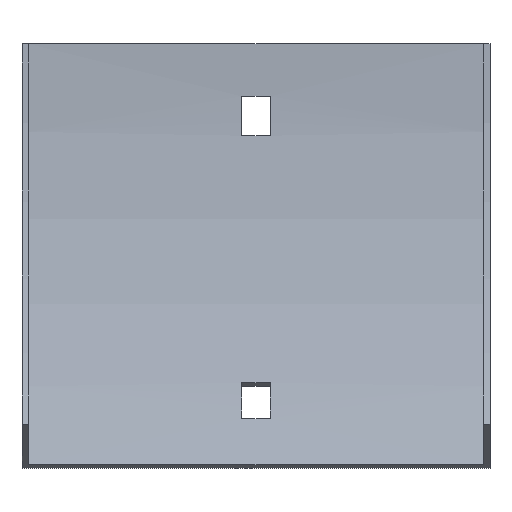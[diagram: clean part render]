
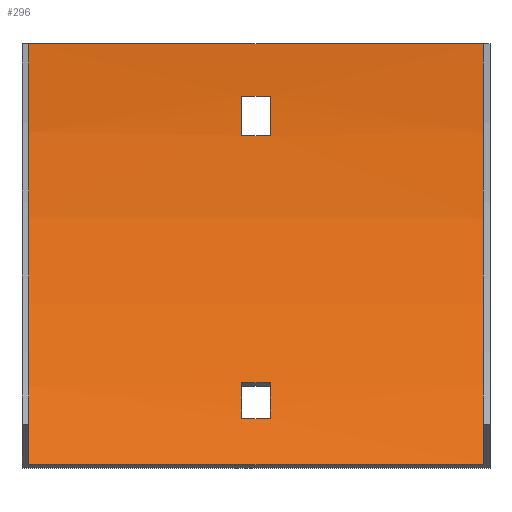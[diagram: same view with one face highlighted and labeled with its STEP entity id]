
A CAD part, front view. The second image highlights one B-rep face of the part: STEP entity #296.
In plain terms, the highlighted cylindrical face has radius 192.5 mm (diameter 385 mm), a partial arc.
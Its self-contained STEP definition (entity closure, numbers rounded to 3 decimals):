
#6 = CARTESIAN_POINT ( 'NONE',  ( 3.25, -21.614, -85.671 ) ) ;
#10 = DIRECTION ( 'NONE',  ( 1., 0., 0. ) ) ;
#12 = DIRECTION ( 'NONE',  ( 0., 0., -1. ) ) ;
#13 = AXIS2_PLACEMENT_3D ( 'NONE', #82, #463, #178 ) ;
#16 = DIRECTION ( 'NONE',  ( 0., 0., 1. ) ) ;
#18 = VERTEX_POINT ( 'NONE', #293 ) ;
#25 = ORIENTED_EDGE ( 'NONE', *, *, #520, .F. ) ;
#42 = CYLINDRICAL_SURFACE ( 'NONE', #13, 192.5 ) ;
#45 = LINE ( 'NONE', #182, #310 ) ;
#46 = CARTESIAN_POINT ( 'NONE',  ( -3.25, -1.874, -12. ) ) ;
#65 = DIRECTION ( 'NONE',  ( 0., 0., -1. ) ) ;
#68 = VERTEX_POINT ( 'NONE', #439 ) ;
#69 = LINE ( 'NONE', #200, #384 ) ;
#70 = EDGE_CURVE ( 'NONE', #76, #154, #571, .T. ) ;
#71 = VECTOR ( 'NONE', #129, 1000. ) ;
#76 = VERTEX_POINT ( 'NONE', #282 ) ;
#78 = LINE ( 'NONE', #504, #71 ) ;
#82 = CARTESIAN_POINT ( 'NONE',  ( 53.5, -194., 0. ) ) ;
#85 = ORIENTED_EDGE ( 'NONE', *, *, #216, .F. ) ;
#88 = CARTESIAN_POINT ( 'NONE',  ( 52., -27.29, -96.25 ) ) ;
#91 = EDGE_CURVE ( 'NONE', #18, #68, #240, .T. ) ;
#96 = AXIS2_PLACEMENT_3D ( 'NONE', #467, #479, #12 ) ;
#99 = CARTESIAN_POINT ( 'NONE',  ( 3.25, -17.785, -77.489 ) ) ;
#101 = ORIENTED_EDGE ( 'NONE', *, *, #487, .F. ) ;
#109 = AXIS2_PLACEMENT_3D ( 'NONE', #578, #485, #65 ) ;
#110 = VERTEX_POINT ( 'NONE', #112 ) ;
#112 = CARTESIAN_POINT ( 'NONE',  ( -52., -27.29, -96.25 ) ) ;
#114 = DIRECTION ( 'NONE',  ( 0., 0., 1. ) ) ;
#116 = DIRECTION ( 'NONE',  ( -1., 0., 0. ) ) ;
#129 = DIRECTION ( 'NONE',  ( -1., 0., 0. ) ) ;
#137 = EDGE_LOOP ( 'NONE', ( #25, #269, #265, #528 ) ) ;
#139 = EDGE_CURVE ( 'NONE', #415, #76, #69, .T. ) ;
#140 = DIRECTION ( 'NONE',  ( -1., 0., 0. ) ) ;
#152 = LINE ( 'NONE', #518, #493 ) ;
#154 = VERTEX_POINT ( 'NONE', #453 ) ;
#157 = CIRCLE ( 'NONE', #594, 192.5 ) ;
#163 = CARTESIAN_POINT ( 'NONE',  ( 52., -1.5, 0. ) ) ;
#178 = DIRECTION ( 'NONE',  ( 0., 0., 1. ) ) ;
#182 = CARTESIAN_POINT ( 'NONE',  ( 53.5, -17.785, -77.489 ) ) ;
#190 = DIRECTION ( 'NONE',  ( -1., 0., 0. ) ) ;
#200 = CARTESIAN_POINT ( 'NONE',  ( 53.5, -21.614, -85.671 ) ) ;
#203 = VECTOR ( 'NONE', #10, 1000. ) ;
#206 = VERTEX_POINT ( 'NONE', #550 ) ;
#209 = EDGE_CURVE ( 'NONE', #486, #498, #315, .T. ) ;
#216 = EDGE_CURVE ( 'NONE', #110, #498, #157, .T. ) ;
#218 = DIRECTION ( 'NONE',  ( 0., 0., 1. ) ) ;
#220 = EDGE_CURVE ( 'NONE', #404, #486, #283, .T. ) ;
#227 = ORIENTED_EDGE ( 'NONE', *, *, #209, .T. ) ;
#240 = LINE ( 'NONE', #432, #203 ) ;
#241 = EDGE_LOOP ( 'NONE', ( #383, #401, #599, #557 ) ) ;
#255 = EDGE_CURVE ( 'NONE', #206, #355, #78, .T. ) ;
#265 = ORIENTED_EDGE ( 'NONE', *, *, #434, .F. ) ;
#266 = DIRECTION ( 'NONE',  ( -1., 0., 0. ) ) ;
#269 = ORIENTED_EDGE ( 'NONE', *, *, #255, .F. ) ;
#270 = FACE_BOUND ( 'NONE', #241, .T. ) ;
#274 = CIRCLE ( 'NONE', #347, 192.5 ) ;
#282 = CARTESIAN_POINT ( 'NONE',  ( -3.25, -21.614, -85.671 ) ) ;
#283 = CIRCLE ( 'NONE', #522, 192.5 ) ;
#286 = CARTESIAN_POINT ( 'NONE',  ( -3.25, -194., 0. ) ) ;
#293 = CARTESIAN_POINT ( 'NONE',  ( -3.25, -2.649, -21. ) ) ;
#295 = EDGE_CURVE ( 'NONE', #524, #415, #274, .T. ) ;
#296 = ADVANCED_FACE ( 'NONE', ( #600, #419, #270 ), #42, .F. ) ;
#299 = AXIS2_PLACEMENT_3D ( 'NONE', #286, #190, #16 ) ;
#301 = EDGE_LOOP ( 'NONE', ( #85, #101, #359, #227 ) ) ;
#308 = DIRECTION ( 'NONE',  ( 0., 0., 1. ) ) ;
#310 = VECTOR ( 'NONE', #422, 1000. ) ;
#315 = LINE ( 'NONE', #163, #510 ) ;
#347 = AXIS2_PLACEMENT_3D ( 'NONE', #461, #266, #218 ) ;
#355 = VERTEX_POINT ( 'NONE', #46 ) ;
#359 = ORIENTED_EDGE ( 'NONE', *, *, #220, .T. ) ;
#383 = ORIENTED_EDGE ( 'NONE', *, *, #139, .T. ) ;
#384 = VECTOR ( 'NONE', #116, 1000. ) ;
#401 = ORIENTED_EDGE ( 'NONE', *, *, #70, .T. ) ;
#404 = VERTEX_POINT ( 'NONE', #88 ) ;
#415 = VERTEX_POINT ( 'NONE', #6 ) ;
#419 = FACE_OUTER_BOUND ( 'NONE', #301, .T. ) ;
#422 = DIRECTION ( 'NONE',  ( 1., 0., 0. ) ) ;
#432 = CARTESIAN_POINT ( 'NONE',  ( 53.5, -2.649, -21. ) ) ;
#434 = EDGE_CURVE ( 'NONE', #68, #206, #561, .T. ) ;
#439 = CARTESIAN_POINT ( 'NONE',  ( 3.25, -2.649, -21. ) ) ;
#453 = CARTESIAN_POINT ( 'NONE',  ( -3.25, -17.785, -77.489 ) ) ;
#461 = CARTESIAN_POINT ( 'NONE',  ( 3.25, -194., 0. ) ) ;
#463 = DIRECTION ( 'NONE',  ( -1., 0., 0. ) ) ;
#467 = CARTESIAN_POINT ( 'NONE',  ( 3.25, -194., 0. ) ) ;
#479 = DIRECTION ( 'NONE',  ( 1., 0., 0. ) ) ;
#484 = CARTESIAN_POINT ( 'NONE',  ( -52., -1.5, 0. ) ) ;
#485 = DIRECTION ( 'NONE',  ( 1., 0., 0. ) ) ;
#486 = VERTEX_POINT ( 'NONE', #564 ) ;
#487 = EDGE_CURVE ( 'NONE', #404, #110, #152, .T. ) ;
#493 = VECTOR ( 'NONE', #140, 1000. ) ;
#494 = DIRECTION ( 'NONE',  ( 1., 0., 0. ) ) ;
#498 = VERTEX_POINT ( 'NONE', #484 ) ;
#499 = DIRECTION ( 'NONE',  ( 1., 0., 0. ) ) ;
#504 = CARTESIAN_POINT ( 'NONE',  ( 53.5, -1.874, -12. ) ) ;
#510 = VECTOR ( 'NONE', #587, 1000. ) ;
#518 = CARTESIAN_POINT ( 'NONE',  ( 52., -27.29, -96.25 ) ) ;
#520 = EDGE_CURVE ( 'NONE', #355, #18, #585, .T. ) ;
#522 = AXIS2_PLACEMENT_3D ( 'NONE', #542, #494, #114 ) ;
#524 = VERTEX_POINT ( 'NONE', #99 ) ;
#528 = ORIENTED_EDGE ( 'NONE', *, *, #91, .F. ) ;
#542 = CARTESIAN_POINT ( 'NONE',  ( 52., -194., 0. ) ) ;
#550 = CARTESIAN_POINT ( 'NONE',  ( 3.25, -1.874, -12. ) ) ;
#557 = ORIENTED_EDGE ( 'NONE', *, *, #295, .T. ) ;
#559 = EDGE_CURVE ( 'NONE', #154, #524, #45, .T. ) ;
#561 = CIRCLE ( 'NONE', #96, 192.5 ) ;
#564 = CARTESIAN_POINT ( 'NONE',  ( 52., -1.5, 0. ) ) ;
#571 = CIRCLE ( 'NONE', #109, 192.5 ) ;
#578 = CARTESIAN_POINT ( 'NONE',  ( -3.25, -194., 0. ) ) ;
#585 = CIRCLE ( 'NONE', #299, 192.5 ) ;
#587 = DIRECTION ( 'NONE',  ( -1., 0., 0. ) ) ;
#590 = CARTESIAN_POINT ( 'NONE',  ( -52., -194., 0. ) ) ;
#594 = AXIS2_PLACEMENT_3D ( 'NONE', #590, #499, #308 ) ;
#599 = ORIENTED_EDGE ( 'NONE', *, *, #559, .T. ) ;
#600 = FACE_BOUND ( 'NONE', #137, .T. ) ;
